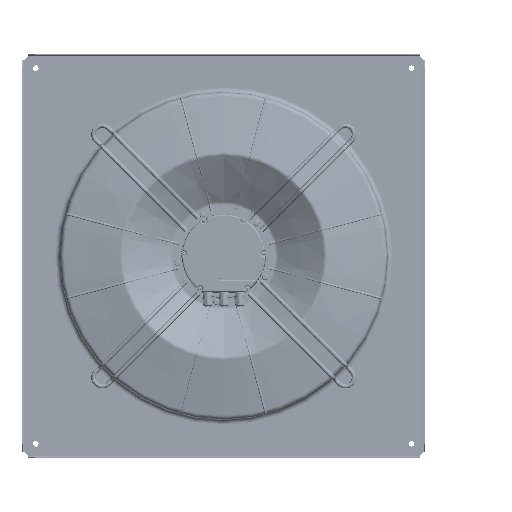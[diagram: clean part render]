
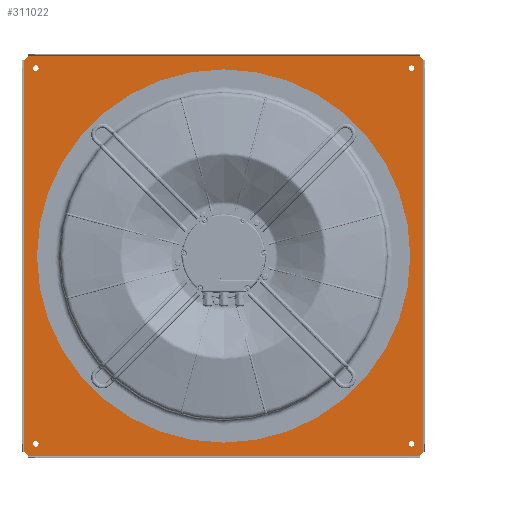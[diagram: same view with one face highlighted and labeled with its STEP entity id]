
A CAD part, front view. The second image highlights one B-rep face of the part: STEP entity #311022.
In plain terms, the highlighted planar face has unit normal (0, -1, 0) as drawn and (0, 0, -1) by its records, which use the part's own axes.
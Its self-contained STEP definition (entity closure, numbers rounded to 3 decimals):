
#308847=CARTESIAN_POINT('',(0.,0.,-2.));
#308848=DIRECTION('',(0.,0.,-1.));
#308849=DIRECTION('',(-1.,0.,0.));
#308850=AXIS2_PLACEMENT_3D('',#308847,#308848,#308849);
#308852=CARTESIAN_POINT('',(0.,0.,-2.));
#308853=DIRECTION('',(0.,0.,-1.));
#308854=DIRECTION('',(1.,0.,0.));
#308855=AXIS2_PLACEMENT_3D('',#308852,#308853,#308854);
#308857=CARTESIAN_POINT('',(-375.,375.,-2.));
#308858=DIRECTION('',(0.,0.,1.));
#308859=DIRECTION('',(0.,1.,0.));
#308860=AXIS2_PLACEMENT_3D('',#308857,#308858,#308859);
#308862=CARTESIAN_POINT('',(-375.,375.,-2.));
#308863=DIRECTION('',(0.,0.,1.));
#308864=DIRECTION('',(0.,-1.,0.));
#308865=AXIS2_PLACEMENT_3D('',#308862,#308863,#308864);
#308867=CARTESIAN_POINT('',(-375.,-375.,-2.));
#308868=DIRECTION('',(0.,0.,1.));
#308869=DIRECTION('',(0.,1.,0.));
#308870=AXIS2_PLACEMENT_3D('',#308867,#308868,#308869);
#308872=CARTESIAN_POINT('',(-375.,-375.,-2.));
#308873=DIRECTION('',(0.,0.,1.));
#308874=DIRECTION('',(0.,-1.,0.));
#308875=AXIS2_PLACEMENT_3D('',#308872,#308873,#308874);
#308877=CARTESIAN_POINT('',(375.,375.,-2.));
#308878=DIRECTION('',(0.,0.,1.));
#308879=DIRECTION('',(0.,1.,0.));
#308880=AXIS2_PLACEMENT_3D('',#308877,#308878,#308879);
#308882=CARTESIAN_POINT('',(375.,375.,-2.));
#308883=DIRECTION('',(0.,0.,1.));
#308884=DIRECTION('',(0.,-1.,0.));
#308885=AXIS2_PLACEMENT_3D('',#308882,#308883,#308884);
#308887=CARTESIAN_POINT('',(375.,-375.,-2.));
#308888=DIRECTION('',(0.,0.,1.));
#308889=DIRECTION('',(0.,1.,0.));
#308890=AXIS2_PLACEMENT_3D('',#308887,#308888,#308889);
#308892=CARTESIAN_POINT('',(375.,-375.,-2.));
#308893=DIRECTION('',(0.,0.,1.));
#308894=DIRECTION('',(0.,-1.,0.));
#308895=AXIS2_PLACEMENT_3D('',#308892,#308893,#308894);
#308897=CARTESIAN_POINT('',(-390.429,-397.5,-2.));
#308898=DIRECTION('',(0.,0.,1.));
#308899=DIRECTION('',(-0.707,-0.707,0.));
#308900=AXIS2_PLACEMENT_3D('',#308897,#308898,#308899);
#308902=DIRECTION('',(1.,0.,0.));
#308903=VECTOR('',#308902,780.858);
#308904=CARTESIAN_POINT('',(-390.429,-398.5,-2.));
#308905=LINE('',#308904,#308903);
#308906=CARTESIAN_POINT('',(390.429,-397.5,-2.));
#308907=DIRECTION('',(0.,0.,1.));
#308908=DIRECTION('',(0.,-1.,0.));
#308909=AXIS2_PLACEMENT_3D('',#308906,#308907,#308908);
#308911=DIRECTION('',(0.707,0.707,0.));
#308912=VECTOR('',#308911,10.);
#308913=CARTESIAN_POINT('',(391.136,-398.207,-2.));
#308914=LINE('',#308913,#308912);
#308915=CARTESIAN_POINT('',(397.5,-390.429,-2.));
#308916=DIRECTION('',(0.,0.,1.));
#308917=DIRECTION('',(0.707,-0.707,0.));
#308918=AXIS2_PLACEMENT_3D('',#308915,#308916,#308917);
#308920=DIRECTION('',(0.,1.,0.));
#308921=VECTOR('',#308920,780.858);
#308922=CARTESIAN_POINT('',(398.5,-390.429,-2.));
#308923=LINE('',#308922,#308921);
#308924=CARTESIAN_POINT('',(397.5,390.429,-2.));
#308925=DIRECTION('',(0.,0.,1.));
#308926=DIRECTION('',(1.,0.,0.));
#308927=AXIS2_PLACEMENT_3D('',#308924,#308925,#308926);
#308929=DIRECTION('',(-0.707,0.707,0.));
#308930=VECTOR('',#308929,10.);
#308931=CARTESIAN_POINT('',(398.207,391.136,-2.));
#308932=LINE('',#308931,#308930);
#308933=CARTESIAN_POINT('',(390.429,397.5,-2.));
#308934=DIRECTION('',(0.,0.,1.));
#308935=DIRECTION('',(0.707,0.707,0.));
#308936=AXIS2_PLACEMENT_3D('',#308933,#308934,#308935);
#308938=DIRECTION('',(-1.,0.,0.));
#308939=VECTOR('',#308938,780.858);
#308940=CARTESIAN_POINT('',(390.429,398.5,-2.));
#308941=LINE('',#308940,#308939);
#308942=CARTESIAN_POINT('',(-390.429,397.5,-2.));
#308943=DIRECTION('',(0.,0.,1.));
#308944=DIRECTION('',(0.,1.,0.));
#308945=AXIS2_PLACEMENT_3D('',#308942,#308943,#308944);
#308947=DIRECTION('',(-0.707,-0.707,0.));
#308948=VECTOR('',#308947,10.);
#308949=CARTESIAN_POINT('',(-391.136,398.207,-2.));
#308950=LINE('',#308949,#308948);
#308951=CARTESIAN_POINT('',(-397.5,390.429,-2.));
#308952=DIRECTION('',(0.,0.,1.));
#308953=DIRECTION('',(-0.707,0.707,0.));
#308954=AXIS2_PLACEMENT_3D('',#308951,#308952,#308953);
#308956=DIRECTION('',(0.,-1.,0.));
#308957=VECTOR('',#308956,780.858);
#308958=CARTESIAN_POINT('',(-398.5,390.429,-2.));
#308959=LINE('',#308958,#308957);
#308960=CARTESIAN_POINT('',(-397.5,-390.429,-2.));
#308961=DIRECTION('',(0.,0.,1.));
#308962=DIRECTION('',(-1.,0.,0.));
#308963=AXIS2_PLACEMENT_3D('',#308960,#308961,#308962);
#308965=DIRECTION('',(0.707,-0.707,0.));
#308966=VECTOR('',#308965,10.);
#308967=CARTESIAN_POINT('',(-398.207,-391.136,-2.));
#308968=LINE('',#308967,#308966);
#310122=CARTESIAN_POINT('',(-357.725,0.,-2.));
#310123=CARTESIAN_POINT('',(357.725,0.,-2.));
#310124=VERTEX_POINT('',#310122);
#310125=VERTEX_POINT('',#310123);
#310138=CARTESIAN_POINT('',(390.429,398.5,-2.));
#310139=CARTESIAN_POINT('',(-390.429,398.5,-2.));
#310140=VERTEX_POINT('',#310138);
#310141=VERTEX_POINT('',#310139);
#310146=CARTESIAN_POINT('',(-398.5,390.429,-2.));
#310147=CARTESIAN_POINT('',(-398.5,-390.429,-2.));
#310148=VERTEX_POINT('',#310146);
#310149=VERTEX_POINT('',#310147);
#310154=CARTESIAN_POINT('',(-390.429,-398.5,-2.));
#310155=CARTESIAN_POINT('',(390.429,-398.5,-2.));
#310156=VERTEX_POINT('',#310154);
#310157=VERTEX_POINT('',#310155);
#310162=CARTESIAN_POINT('',(398.5,-390.429,-2.));
#310163=CARTESIAN_POINT('',(398.5,390.429,-2.));
#310164=VERTEX_POINT('',#310162);
#310165=VERTEX_POINT('',#310163);
#310182=CARTESIAN_POINT('',(-375.,380.5,-2.));
#310183=CARTESIAN_POINT('',(-375.,369.5,-2.));
#310184=VERTEX_POINT('',#310182);
#310185=VERTEX_POINT('',#310183);
#310190=CARTESIAN_POINT('',(-375.,-369.5,-2.));
#310191=CARTESIAN_POINT('',(-375.,-380.5,-2.));
#310192=VERTEX_POINT('',#310190);
#310193=VERTEX_POINT('',#310191);
#310198=CARTESIAN_POINT('',(375.,380.5,-2.));
#310199=CARTESIAN_POINT('',(375.,369.5,-2.));
#310200=VERTEX_POINT('',#310198);
#310201=VERTEX_POINT('',#310199);
#310206=CARTESIAN_POINT('',(375.,-369.5,-2.));
#310207=CARTESIAN_POINT('',(375.,-380.5,-2.));
#310208=VERTEX_POINT('',#310206);
#310209=VERTEX_POINT('',#310207);
#310214=CARTESIAN_POINT('',(391.136,-398.207,-2.));
#310215=CARTESIAN_POINT('',(398.207,-391.136,-2.));
#310216=VERTEX_POINT('',#310214);
#310217=VERTEX_POINT('',#310215);
#310222=CARTESIAN_POINT('',(398.207,391.136,-2.));
#310223=CARTESIAN_POINT('',(391.136,398.207,-2.));
#310224=VERTEX_POINT('',#310222);
#310225=VERTEX_POINT('',#310223);
#310230=CARTESIAN_POINT('',(-391.136,398.207,-2.));
#310231=CARTESIAN_POINT('',(-398.207,391.136,-2.));
#310232=VERTEX_POINT('',#310230);
#310233=VERTEX_POINT('',#310231);
#310238=CARTESIAN_POINT('',(-398.207,-391.136,-2.));
#310239=CARTESIAN_POINT('',(-391.136,-398.207,-2.));
#310240=VERTEX_POINT('',#310238);
#310241=VERTEX_POINT('',#310239);
#310954=CARTESIAN_POINT('',(0.,0.,-2.));
#310955=DIRECTION('',(0.,0.,1.));
#310956=DIRECTION('',(1.,0.,0.));
#310957=AXIS2_PLACEMENT_3D('',#310954,#310955,#310956);
#310958=PLANE('',#310957);
#310960=ORIENTED_EDGE('',*,*,#310959,.T.);
#310962=ORIENTED_EDGE('',*,*,#310961,.T.);
#310964=ORIENTED_EDGE('',*,*,#310963,.T.);
#310966=ORIENTED_EDGE('',*,*,#310965,.T.);
#310968=ORIENTED_EDGE('',*,*,#310967,.T.);
#310970=ORIENTED_EDGE('',*,*,#310969,.T.);
#310972=ORIENTED_EDGE('',*,*,#310971,.T.);
#310974=ORIENTED_EDGE('',*,*,#310973,.T.);
#310976=ORIENTED_EDGE('',*,*,#310975,.T.);
#310978=ORIENTED_EDGE('',*,*,#310977,.T.);
#310980=ORIENTED_EDGE('',*,*,#310979,.T.);
#310982=ORIENTED_EDGE('',*,*,#310981,.T.);
#310984=ORIENTED_EDGE('',*,*,#310983,.T.);
#310986=ORIENTED_EDGE('',*,*,#310985,.T.);
#310988=ORIENTED_EDGE('',*,*,#310987,.T.);
#310990=ORIENTED_EDGE('',*,*,#310989,.T.);
#310991=EDGE_LOOP('',(#310960,#310962,#310964,#310966,#310968,#310970,#310972,
#310974,#310976,#310978,#310980,#310982,#310984,#310986,#310988,#310990));
#310992=FACE_OUTER_BOUND('',#310991,.F.);
#310994=ORIENTED_EDGE('',*,*,#310993,.F.);
#310996=ORIENTED_EDGE('',*,*,#310995,.F.);
#310997=EDGE_LOOP('',(#310994,#310996));
#310998=FACE_BOUND('',#310997,.F.);
#311000=ORIENTED_EDGE('',*,*,#310999,.F.);
#311002=ORIENTED_EDGE('',*,*,#311001,.F.);
#311003=EDGE_LOOP('',(#311000,#311002));
#311004=FACE_BOUND('',#311003,.F.);
#311006=ORIENTED_EDGE('',*,*,#311005,.F.);
#311008=ORIENTED_EDGE('',*,*,#311007,.F.);
#311009=EDGE_LOOP('',(#311006,#311008));
#311010=FACE_BOUND('',#311009,.F.);
#311012=ORIENTED_EDGE('',*,*,#311011,.F.);
#311014=ORIENTED_EDGE('',*,*,#311013,.F.);
#311015=EDGE_LOOP('',(#311012,#311014));
#311016=FACE_BOUND('',#311015,.F.);
#311018=ORIENTED_EDGE('',*,*,#311017,.T.);
#311019=ORIENTED_EDGE('',*,*,#310944,.T.);
#311020=EDGE_LOOP('',(#311018,#311019));
#311021=FACE_BOUND('',#311020,.F.);
#311022=ADVANCED_FACE('',(#310992,#310998,#311004,#311010,#311016,#311021),
#310958,.F.);
#308851=CIRCLE('',#308850,357.725);
#308856=CIRCLE('',#308855,357.725);
#308861=CIRCLE('',#308860,5.5);
#308866=CIRCLE('',#308865,5.5);
#308871=CIRCLE('',#308870,5.5);
#308876=CIRCLE('',#308875,5.5);
#308881=CIRCLE('',#308880,5.5);
#308886=CIRCLE('',#308885,5.5);
#308891=CIRCLE('',#308890,5.5);
#308896=CIRCLE('',#308895,5.5);
#308901=CIRCLE('',#308900,1.);
#308910=CIRCLE('',#308909,1.);
#308919=CIRCLE('',#308918,1.);
#308928=CIRCLE('',#308927,1.);
#308937=CIRCLE('',#308936,1.);
#308946=CIRCLE('',#308945,1.);
#308955=CIRCLE('',#308954,1.);
#308964=CIRCLE('',#308963,1.);
#310944=EDGE_CURVE('',#310125,#310124,#308856,.T.);
#310959=EDGE_CURVE('',#310241,#310156,#308901,.T.);
#310961=EDGE_CURVE('',#310156,#310157,#308905,.T.);
#310963=EDGE_CURVE('',#310157,#310216,#308910,.T.);
#310965=EDGE_CURVE('',#310216,#310217,#308914,.T.);
#310967=EDGE_CURVE('',#310217,#310164,#308919,.T.);
#310969=EDGE_CURVE('',#310164,#310165,#308923,.T.);
#310971=EDGE_CURVE('',#310165,#310224,#308928,.T.);
#310973=EDGE_CURVE('',#310224,#310225,#308932,.T.);
#310975=EDGE_CURVE('',#310225,#310140,#308937,.T.);
#310977=EDGE_CURVE('',#310140,#310141,#308941,.T.);
#310979=EDGE_CURVE('',#310141,#310232,#308946,.T.);
#310981=EDGE_CURVE('',#310232,#310233,#308950,.T.);
#310983=EDGE_CURVE('',#310233,#310148,#308955,.T.);
#310985=EDGE_CURVE('',#310148,#310149,#308959,.T.);
#310987=EDGE_CURVE('',#310149,#310240,#308964,.T.);
#310989=EDGE_CURVE('',#310240,#310241,#308968,.T.);
#310993=EDGE_CURVE('',#310184,#310185,#308861,.T.);
#310995=EDGE_CURVE('',#310185,#310184,#308866,.T.);
#310999=EDGE_CURVE('',#310192,#310193,#308871,.T.);
#311001=EDGE_CURVE('',#310193,#310192,#308876,.T.);
#311005=EDGE_CURVE('',#310200,#310201,#308881,.T.);
#311007=EDGE_CURVE('',#310201,#310200,#308886,.T.);
#311011=EDGE_CURVE('',#310208,#310209,#308891,.T.);
#311013=EDGE_CURVE('',#310209,#310208,#308896,.T.);
#311017=EDGE_CURVE('',#310124,#310125,#308851,.T.);
